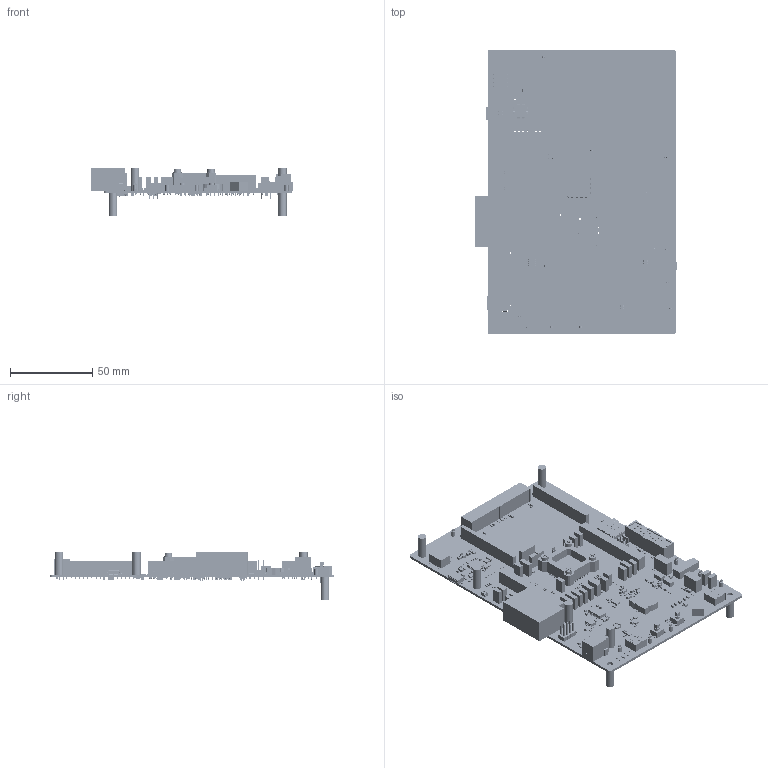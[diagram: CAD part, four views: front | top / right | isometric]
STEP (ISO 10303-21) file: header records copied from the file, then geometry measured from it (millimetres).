
FILE_DESCRIPTION(('Open CASCADE Model'),'2;1');
FILE_NAME('Open CASCADE Shape Model','2020-09-07T15:32:29',('Author'),( 'Open CASCADE'),'Open CASCADE STEP processor 6.8','Open CASCADE 6.8' ,'Unknown');
FILE_SCHEMA(('AUTOMOTIVE_DESIGN { 1 0 10303 214 1 1 1 1 }'));
Length unit declared in the file: millimetre
Products named in the file (742): PCB; Board; Open CASCADE STEP translator 6.8 1.1.1; U7; LQFP100_05; 6621769504; Extruded; 6621769424; 6621769344; 6621769264; 6622559056; Cylinder; 6622558736; 6622558496; 6622558256; 6622557696; 6622553936; 6622553536; 6622545456; 6622112688; 6622106208; 6622105728; JP11; TSW-102-07-G-S; _TSW-102-07-G-S_body; _T-1S6-07-TSW-1-07-2-S; 6621759424; C94; C0402; 6599376576; C92; 6622870032; SB6; R0603; 6774998976; SB5; CN8; TSW-104-07-G-S; _TSW-104-07-G-S_body; _T-1S6-07-TSW-1-07-4-S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
Assembly tree (1688 placements, depth 4):
  PCB
    Board
      Open CASCADE STEP translator 6.8 1.1.1
    U7
      LQFP100_05
      6621769504  x4
        Extruded
      6621769424  x4
        Extruded
      6621769344  x4
        Extruded
      6621769264  x4
        Extruded
      6622559056  x4
        Cylinder
      6622558736  x4
        Cylinder
      6622558496  x2
        Extruded
      6622558256  x50
        Extruded
      6622557696  x50
        Extruded
      6622553936  x50
        Extruded
      6622553536  x50
        Extruded
      6622545456  x2
        Extruded
      6622112688
        Extruded
      6622106208
        Extruded
      6622105728
        Extruded
    JP11
      TSW-102-07-G-S
        _TSW-102-07-G-S_body
        _T-1S6-07-TSW-1-07-2-S
      6621759424
        Extruded
    C94
      C0402
      6599376576
        Extruded
    C92
      C0402
      6622870032
        Extruded
    SB6
      R0603
      6774998976
        Extruded
    SB5
      R0603
      6774998976
        Extruded
    CN8
      TSW-104-07-G-S
        _TSW-104-07-G-S_body
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Bounding box: 123.08 x 172.72 x 29.61 mm (x, y, z)
Volume: 87320.2 mm3; surface area: 108414.9 mm2
Topology: 1660 solids, 3479 shells, 50057 faces, 124834 edges, 80268 vertices
Faces by surface type: plane 32303, bspline 9754, cylinder 6840, sphere 838, torus 142, revolution 106, cone 74
Full cylindrical faces by diameter (mm): 0.2 x4, 0.3 x1, 0.4 x2, 0.5 x1, 0.65 x1, 0.7 x1, 0.8 x7, 0.9 x2, 1 x204, 1.05 x8, 1.1 x56, 1.2 x20, 1.3 x1, 1.5 x8, 1.9 x8, 2 x2, 2.5 x8, 3.3 x2, 3.4 x2, 3.5 x7, 3.84 x2, 4.6 x4, 5 x4, 13 x1, 15 x1
Entity records: 489616 total; most frequent: CARTESIAN_POINT 98921, ORIENTED_EDGE 66288, DIRECTION 62803, EDGE_CURVE 33850, LINE 28093, VECTOR 28093, VERTEX_POINT 22308, AXIS2_PLACEMENT_3D 17350
